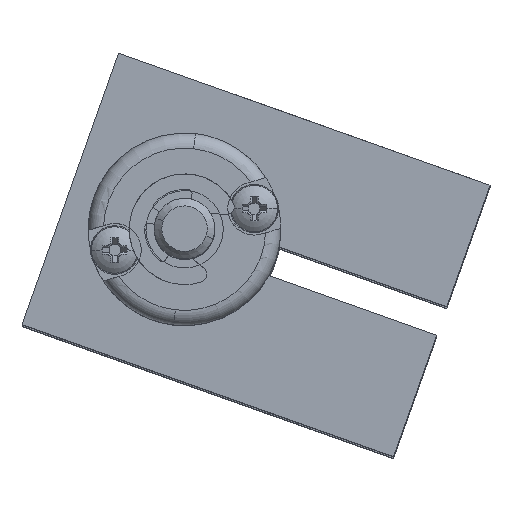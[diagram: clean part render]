
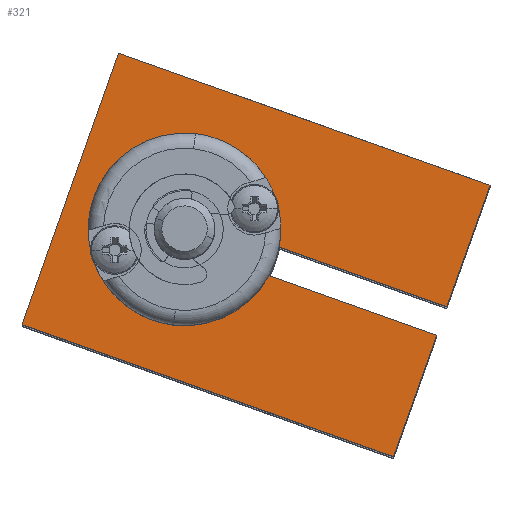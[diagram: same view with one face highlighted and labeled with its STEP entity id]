
A CAD part, top view. The second image highlights one B-rep face of the part: STEP entity #321.
In plain terms, the highlighted planar face has unit normal (0, 0, 1).
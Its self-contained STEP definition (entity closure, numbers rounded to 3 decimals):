
#321=ADVANCED_FACE('',(#951),#952,.F.);
#951=FACE_OUTER_BOUND('',#1780,.T.);
#952=PLANE('',#1781);
#1780=EDGE_LOOP('',(#4797,#4798,#4799,#4800,#4801,#4802,#4803,#4804,#4805,#4806));
#1781=AXIS2_PLACEMENT_3D('',#4807,#4808,#4809);
#4797=ORIENTED_EDGE('',*,*,#6738,.F.);
#4798=ORIENTED_EDGE('',*,*,#6734,.F.);
#4799=ORIENTED_EDGE('',*,*,#6755,.F.);
#4800=ORIENTED_EDGE('',*,*,#6752,.F.);
#4801=ORIENTED_EDGE('',*,*,#6749,.F.);
#4802=ORIENTED_EDGE('',*,*,#6067,.F.);
#4803=ORIENTED_EDGE('',*,*,#6041,.F.);
#4804=ORIENTED_EDGE('',*,*,#6058,.F.);
#4805=ORIENTED_EDGE('',*,*,#6747,.F.);
#4806=ORIENTED_EDGE('',*,*,#6744,.F.);
#4807=CARTESIAN_POINT('',(0.,0.,-60.0));
#4808=DIRECTION('',(0.0,0.0,-1.0));
#4809=DIRECTION('',(0.0,-1.0,0.0));
#6041=EDGE_CURVE('',#7489,#7470,#7491,.T.);
#6058=EDGE_CURVE('',#7520,#7489,#7522,.T.);
#6067=EDGE_CURVE('',#7470,#7538,#7539,.T.);
#6734=EDGE_CURVE('',#8678,#8679,#8680,.T.);
#6738=EDGE_CURVE('',#8679,#8686,#8687,.T.);
#6744=EDGE_CURVE('',#8686,#8694,#8695,.T.);
#6747=EDGE_CURVE('',#8694,#7520,#8699,.T.);
#6749=EDGE_CURVE('',#7538,#8701,#8702,.T.);
#6752=EDGE_CURVE('',#8701,#8706,#8707,.T.);
#6755=EDGE_CURVE('',#8706,#8678,#8711,.T.);
#7470=VERTEX_POINT('',#9283);
#7489=VERTEX_POINT('',#9305);
#7491=CIRCLE('',#9308,6.35);
#7520=VERTEX_POINT('',#9344);
#7522=CIRCLE('',#9347,6.35);
#7538=VERTEX_POINT('',#9365);
#7539=CIRCLE('',#9366,6.35);
#8678=VERTEX_POINT('',#11313);
#8679=VERTEX_POINT('',#11314);
#8680=LINE('',#11315,#11316);
#8686=VERTEX_POINT('',#11325);
#8687=LINE('',#11326,#11327);
#8694=VERTEX_POINT('',#11338);
#8695=LINE('',#11339,#11340);
#8699=LINE('',#11346,#11347);
#8701=VERTEX_POINT('',#11350);
#8702=LINE('',#11351,#11352);
#8706=VERTEX_POINT('',#11358);
#8707=LINE('',#11359,#11360);
#8711=LINE('',#11366,#11367);
#9283=CARTESIAN_POINT('',(-2.831,-5.684,-60.0));
#9305=CARTESIAN_POINT('',(2.831,5.684,-60.0));
#9308=AXIS2_PLACEMENT_3D('',#12276,#12277,#12278);
#9344=CARTESIAN_POINT('',(6.244,-1.157,-60.0));
#9347=AXIS2_PLACEMENT_3D('',#12311,#12312,#12313);
#9365=CARTESIAN_POINT('',(5.574,-3.042,-60.0));
#9366=AXIS2_PLACEMENT_3D('',#12334,#12335,#12336);
#11313=CARTESIAN_POINT('',(-10.719,-6.273,-60.0));
#11314=CARTESIAN_POINT('',(-4.358,11.63,-60.0));
#11315=CARTESIAN_POINT('',(-10.719,-6.273,-60.0));
#11316=VECTOR('',#13565,19.0);
#11325=CARTESIAN_POINT('',(20.142,2.926,-60.0));
#11326=CARTESIAN_POINT('',(-4.358,11.63,-60.0));
#11327=VECTOR('',#13569,26.0);
#11338=CARTESIAN_POINT('',(17.296,-5.084,-60.0));
#11339=CARTESIAN_POINT('',(20.142,2.926,-60.0));
#11340=VECTOR('',#13577,8.5);
#11346=CARTESIAN_POINT('',(17.296,-5.084,-60.0));
#11347=VECTOR('',#13580,11.729);
#11350=CARTESIAN_POINT('',(16.626,-6.969,-60.0));
#11351=CARTESIAN_POINT('',(5.574,-3.042,-60.0));
#11352=VECTOR('',#13582,11.729);
#11358=CARTESIAN_POINT('',(13.781,-14.978,-60.0));
#11359=CARTESIAN_POINT('',(16.626,-6.969,-60.0));
#11360=VECTOR('',#13585,8.5);
#11366=CARTESIAN_POINT('',(13.781,-14.978,-60.0));
#11367=VECTOR('',#13588,26.0);
#12276=CARTESIAN_POINT('',(0.,0.,-60.0));
#12277=DIRECTION('',(0.,0.,1.0));
#12278=DIRECTION('',(-0.446,-0.895,0.));
#12311=CARTESIAN_POINT('',(0.,0.,-60.0));
#12312=DIRECTION('',(0.,0.,1.0));
#12313=DIRECTION('',(-0.446,-0.895,0.));
#12334=CARTESIAN_POINT('',(0.,0.,-60.0));
#12335=DIRECTION('',(0.,0.,1.0));
#12336=DIRECTION('',(-0.446,-0.895,0.));
#13565=DIRECTION('',(0.335,0.942,0.));
#13569=DIRECTION('',(0.942,-0.335,0.));
#13577=DIRECTION('',(-0.335,-0.942,0.));
#13580=DIRECTION('',(-0.942,0.335,0.));
#13582=DIRECTION('',(0.942,-0.335,0.));
#13585=DIRECTION('',(-0.335,-0.942,0.));
#13588=DIRECTION('',(-0.942,0.335,0.));
